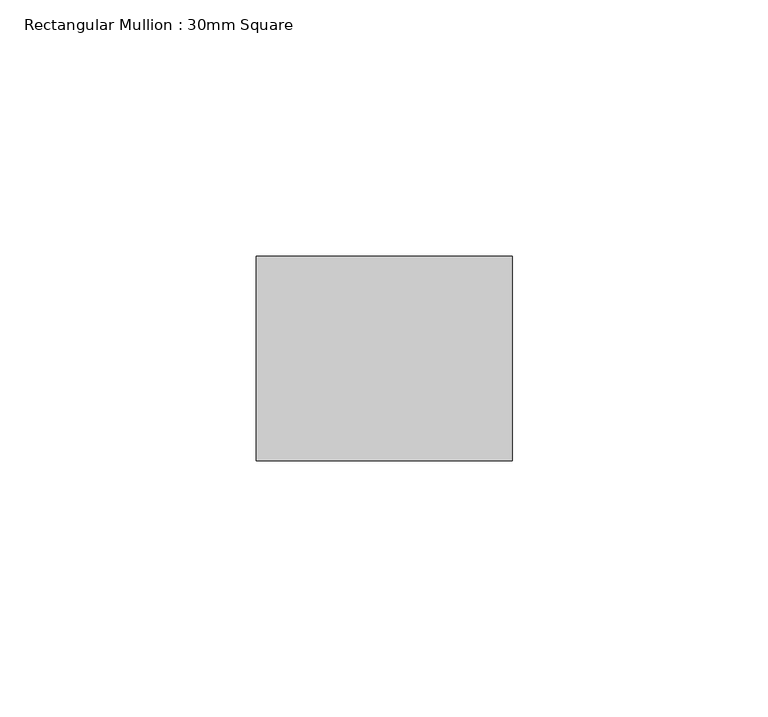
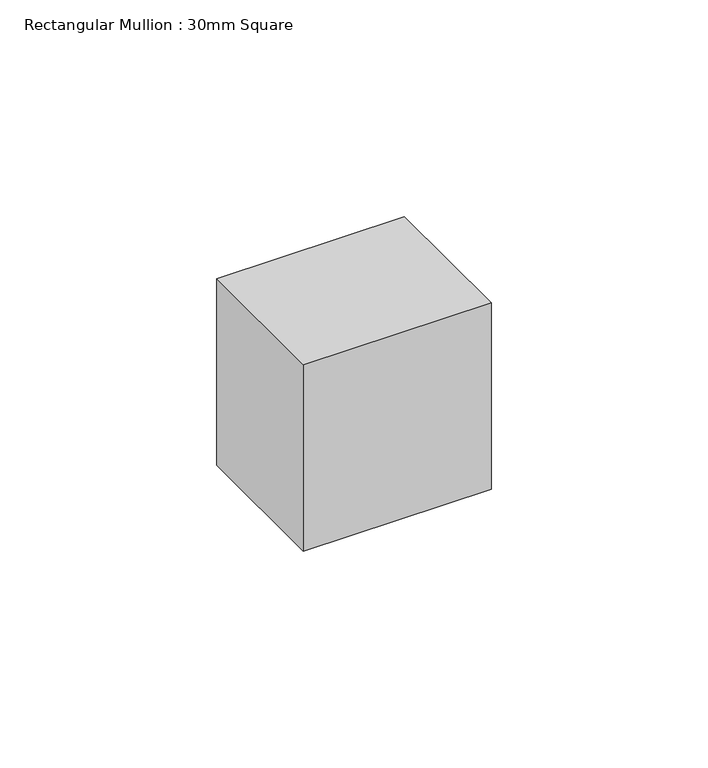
"""IFC4 building model written with IfcOpenShell, lengths in millimetres: member geometry, Rectangular Mullion : 30mm Square."""

from ifc_helpers import new_model, si_unit, frame, origin, place, context, project, spatial, polyline, outline, extrude, source, transform, mapped, element, save


def rectangular_mullion_30mm_square_b4bb39cd(model_context):
    return source(origin(), model_context, "Body", "SweptSolid", [
        extrude(outline(polyline([(0.0, 20.0), (0.0, -20.0), (-50.0, -20.0), (-50.0, 20.0), (0.0, 20.0)])), frame((0.0, 0.0, -52.5), z_axis=(0.0, 0.0, 1.0), x_axis=(1.0, 0.0, 0.0)), (0.0, 0.0, 1.0), 52.5),
    ])


if __name__ == "__main__":
    model = new_model("IFC4")
    model_context = context("Model", 3, world=origin())
    ifc_project = project(units=[si_unit("LENGTHUNIT", "METRE", prefix="MILLI")], contexts=[model_context])
    site = spatial("IfcSite", under=ifc_project)
    building = spatial("IfcBuilding", under=site)
    placement = place(None, origin())
    rectangular_mullion_30mm_square_shape = rectangular_mullion_30mm_square_b4bb39cd(model_context)
    element("IfcMember", 1, ObjectType="Rectangular Mullion : 30mm Square", at=placement, inside=building, context=model_context, shape_type="MappedRepresentation", body=[
        mapped(rectangular_mullion_30mm_square_shape, transform((0.0, 0.0, 0.0), x_axis=(1.0, 0.0, 0.0), y_axis=(0.0, 1.0, 0.0), z_axis=(0.0, 0.0, 1.0))),
    ])
    save(model, "model.ifc")
